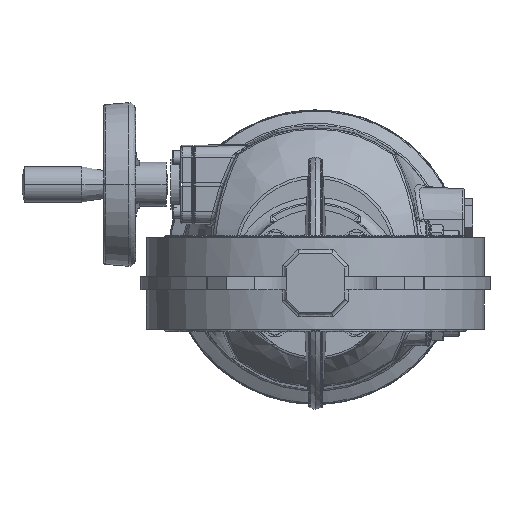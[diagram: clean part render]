
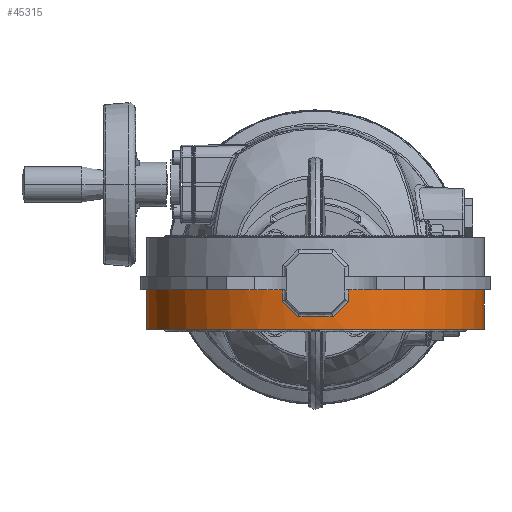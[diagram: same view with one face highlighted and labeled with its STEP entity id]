
A CAD part, front view. The second image highlights one B-rep face of the part: STEP entity #45315.
In plain terms, the highlighted conical face has half-angle 1 degrees and reference radius 103.489 mm.
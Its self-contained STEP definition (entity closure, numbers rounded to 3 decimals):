
#1628 = B_SPLINE_CURVE_WITH_KNOTS ( 'NONE', 3,
 ( #76949, #37012, #101127, #46428 ),
 .UNSPECIFIED., .F., .F.,
 ( 4, 4 ),
 ( 0., 1. ),
 .UNSPECIFIED. ) ;
#2485 = B_SPLINE_CURVE_WITH_KNOTS ( 'NONE', 3,
 ( #60964, #28394, #20527, #21058 ),
 .UNSPECIFIED., .F., .F.,
 ( 4, 4 ),
 ( 0., 1. ),
 .UNSPECIFIED. ) ;
#4042 = ORIENTED_EDGE ( 'NONE', *, *, #83350, .T. ) ;
#4476 = VERTEX_POINT ( 'NONE', #61695 ) ;
#5918 = DIRECTION ( 'NONE',  ( 0.017, 0., 1. ) ) ;
#5921 = DIRECTION ( 'NONE',  ( -0.017, 0., 1. ) ) ;
#7633 = AXIS2_PLACEMENT_3D ( 'NONE', #95897, #16540, #95396 ) ;
#8349 = CARTESIAN_POINT ( 'NONE',  ( 0., 0., -27.996 ) ) ;
#10243 = CARTESIAN_POINT ( 'NONE',  ( -103., 0., -27.996 ) ) ;
#10945 = CARTESIAN_POINT ( 'NONE',  ( -20.016, -101.463, -4. ) ) ;
#11973 = CARTESIAN_POINT ( 'NONE',  ( -47.67, -91.964, -4. ) ) ;
#12117 = DIRECTION ( 'NONE',  ( -1., 0., 0. ) ) ;
#13063 = CARTESIAN_POINT ( 'NONE',  ( 20.016, -101.463, -4. ) ) ;
#13266 = LINE ( 'NONE', #45294, #14700 ) ;
#13862 = B_SPLINE_CURVE_WITH_KNOTS ( 'NONE', 3,
 ( #10945, #36152, #98705, #52392, #11973, #58745 ),
 .UNSPECIFIED., .F., .F.,
 ( 4, 2, 4 ),
 ( 0., 0.5, 1. ),
 .UNSPECIFIED. ) ;
#14700 = VECTOR ( 'NONE', #5918, 1000. ) ;
#16540 = DIRECTION ( 'NONE',  ( 0., 0., 1. ) ) ;
#17896 = CARTESIAN_POINT ( 'NONE',  ( 3.618, -103.319, -20.456 ) ) ;
#18837 = ORIENTED_EDGE ( 'NONE', *, *, #71954, .T. ) ;
#20527 = CARTESIAN_POINT ( 'NONE',  ( -20.016, -101.422, -6.331 ) ) ;
#20580 = CARTESIAN_POINT ( 'NONE',  ( 103., 0., -27.996 ) ) ;
#21058 = CARTESIAN_POINT ( 'NONE',  ( -20.016, -101.463, -4. ) ) ;
#22006 = VERTEX_POINT ( 'NONE', #85776 ) ;
#22555 = CARTESIAN_POINT ( 'NONE',  ( 20.016, -101.463, -4. ) ) ;
#23850 = VERTEX_POINT ( 'NONE', #20580 ) ;
#24161 = B_SPLINE_CURVE_WITH_KNOTS ( 'NONE', 3,
 ( #69280, #37227, #86568, #54525, #102881, #13063 ),
 .UNSPECIFIED., .F., .F.,
 ( 4, 2, 4 ),
 ( 0., 0.5, 1. ),
 .UNSPECIFIED. ) ;
#25249 = CARTESIAN_POINT ( 'NONE',  ( 10.774, -102.567, -20.456 ) ) ;
#25561 = CARTESIAN_POINT ( 'NONE',  ( 103.419, 0., -4. ) ) ;
#25934 = ORIENTED_EDGE ( 'NONE', *, *, #66577, .T. ) ;
#27353 = CARTESIAN_POINT ( 'NONE',  ( 0., 0., 0. ) ) ;
#28215 = CARTESIAN_POINT ( 'NONE',  ( -10.774, -102.567, -20.456 ) ) ;
#28394 = CARTESIAN_POINT ( 'NONE',  ( -20.016, -101.38, -8.661 ) ) ;
#30186 = CONICAL_SURFACE ( 'NONE', #36949, 103.489, 0.017 ) ;
#30372 = VERTEX_POINT ( 'NONE', #73205 ) ;
#30583 = CARTESIAN_POINT ( 'NONE',  ( -103.489, 0., 0. ) ) ;
#31305 = DIRECTION ( 'NONE',  ( 1., 0., 0. ) ) ;
#33187 = EDGE_CURVE ( 'NONE', #94686, #78531, #13862, .T. ) ;
#33558 = CARTESIAN_POINT ( 'NONE',  ( -20.016, -101.339, -10.992 ) ) ;
#33877 = VERTEX_POINT ( 'NONE', #85374 ) ;
#35795 = ORIENTED_EDGE ( 'NONE', *, *, #57799, .F. ) ;
#35879 = EDGE_CURVE ( 'NONE', #22006, #90376, #47684, .T. ) ;
#36152 = CARTESIAN_POINT ( 'NONE',  ( -25.767, -100.329, -4. ) ) ;
#36295 = DIRECTION ( 'NONE',  ( 0., 0., 1. ) ) ;
#36949 = AXIS2_PLACEMENT_3D ( 'NONE', #27353, #36295, #12117 ) ;
#37012 = CARTESIAN_POINT ( 'NONE',  ( 20.016, -101.422, -6.331 ) ) ;
#37227 = CARTESIAN_POINT ( 'NONE',  ( 47.67, -91.964, -4. ) ) ;
#41484 = EDGE_CURVE ( 'NONE', #87114, #102826, #86577, .T. ) ;
#42555 = CARTESIAN_POINT ( 'NONE',  ( -3.618, -103.319, -20.456 ) ) ;
#44770 = CARTESIAN_POINT ( 'NONE',  ( -20.016, -101.339, -10.992 ) ) ;
#45294 = CARTESIAN_POINT ( 'NONE',  ( 103.489, 0., 0. ) ) ;
#45315 = ADVANCED_FACE ( 'NONE', ( #99895 ), #30186, .T. ) ;
#46223 = DIRECTION ( 'NONE',  ( -1., 0., 0. ) ) ;
#46236 = AXIS2_PLACEMENT_3D ( 'NONE', #71278, #103325, #31305 ) ;
#46257 = ORIENTED_EDGE ( 'NONE', *, *, #76560, .F. ) ;
#46428 = CARTESIAN_POINT ( 'NONE',  ( 20.016, -101.339, -10.992 ) ) ;
#47684 = CIRCLE ( 'NONE', #7633, 103.419 ) ;
#48270 = CARTESIAN_POINT ( 'NONE',  ( -16.953, -101.888, -14.147 ) ) ;
#49277 = VERTEX_POINT ( 'NONE', #10243 ) ;
#52392 = CARTESIAN_POINT ( 'NONE',  ( -42.372, -94.522, -4. ) ) ;
#53248 = AXIS2_PLACEMENT_3D ( 'NONE', #8349, #55132, #46223 ) ;
#54525 = CARTESIAN_POINT ( 'NONE',  ( 31.421, -98.704, -4. ) ) ;
#55132 = DIRECTION ( 'NONE',  ( 0., 0., 1. ) ) ;
#56551 = CIRCLE ( 'NONE', #53248, 103. ) ;
#56562 = EDGE_CURVE ( 'NONE', #33877, #87114, #63246, .T. ) ;
#57636 = CARTESIAN_POINT ( 'NONE',  ( -20.016, -101.463, -4. ) ) ;
#57799 = EDGE_CURVE ( 'NONE', #4476, #78531, #93208, .T. ) ;
#58223 = CARTESIAN_POINT ( 'NONE',  ( -13.869, -102.298, -17.302 ) ) ;
#58745 = CARTESIAN_POINT ( 'NONE',  ( -52.713, -88.977, -4. ) ) ;
#60487 = VERTEX_POINT ( 'NONE', #22555 ) ;
#60964 = CARTESIAN_POINT ( 'NONE',  ( -20.016, -101.339, -10.992 ) ) ;
#61494 = EDGE_CURVE ( 'NONE', #30372, #33877, #72497, .T. ) ;
#61695 = CARTESIAN_POINT ( 'NONE',  ( -103.419, 0., -4. ) ) ;
#62311 = CARTESIAN_POINT ( 'NONE',  ( 13.869, -102.298, -17.302 ) ) ;
#62829 = CARTESIAN_POINT ( 'NONE',  ( 10.774, -102.567, -20.456 ) ) ;
#63246 = B_SPLINE_CURVE_WITH_KNOTS ( 'NONE', 3,
 ( #25249, #17896, #42555, #88303 ),
 .UNSPECIFIED., .F., .F.,
 ( 4, 4 ),
 ( 0., 1. ),
 .UNSPECIFIED. ) ;
#66577 = EDGE_CURVE ( 'NONE', #22006, #60487, #24161, .T. ) ;
#67574 = ORIENTED_EDGE ( 'NONE', *, *, #33187, .T. ) ;
#69280 = CARTESIAN_POINT ( 'NONE',  ( 52.713, -88.977, -4. ) ) ;
#69696 = ORIENTED_EDGE ( 'NONE', *, *, #56562, .T. ) ;
#70766 = ORIENTED_EDGE ( 'NONE', *, *, #61494, .T. ) ;
#71278 = CARTESIAN_POINT ( 'NONE',  ( 0., 0., -4. ) ) ;
#71954 = EDGE_CURVE ( 'NONE', #102826, #94686, #2485, .T. ) ;
#72497 = B_SPLINE_CURVE_WITH_KNOTS ( 'NONE', 3,
 ( #78066, #101222, #62311, #62829 ),
 .UNSPECIFIED., .F., .F.,
 ( 4, 4 ),
 ( 0., 1. ),
 .UNSPECIFIED. ) ;
#73205 = CARTESIAN_POINT ( 'NONE',  ( 20.016, -101.339, -10.992 ) ) ;
#73932 = VECTOR ( 'NONE', #5921, 1000. ) ;
#76560 = EDGE_CURVE ( 'NONE', #49277, #4476, #77357, .T. ) ;
#76949 = CARTESIAN_POINT ( 'NONE',  ( 20.016, -101.463, -4. ) ) ;
#77357 = LINE ( 'NONE', #30583, #73932 ) ;
#78066 = CARTESIAN_POINT ( 'NONE',  ( 20.016, -101.339, -10.992 ) ) ;
#78531 = VERTEX_POINT ( 'NONE', #87597 ) ;
#81910 = CARTESIAN_POINT ( 'NONE',  ( -10.774, -102.567, -20.456 ) ) ;
#83350 = EDGE_CURVE ( 'NONE', #49277, #23850, #56551, .T. ) ;
#85374 = CARTESIAN_POINT ( 'NONE',  ( 10.774, -102.567, -20.456 ) ) ;
#85776 = CARTESIAN_POINT ( 'NONE',  ( 52.713, -88.977, -4. ) ) ;
#86568 = CARTESIAN_POINT ( 'NONE',  ( 42.372, -94.522, -4. ) ) ;
#86577 = B_SPLINE_CURVE_WITH_KNOTS ( 'NONE', 3,
 ( #81910, #58223, #48270, #33558 ),
 .UNSPECIFIED., .F., .F.,
 ( 4, 4 ),
 ( 0., 1. ),
 .UNSPECIFIED. ) ;
#87114 = VERTEX_POINT ( 'NONE', #28215 ) ;
#87245 = ORIENTED_EDGE ( 'NONE', *, *, #96824, .T. ) ;
#87597 = CARTESIAN_POINT ( 'NONE',  ( -52.713, -88.977, -4. ) ) ;
#88303 = CARTESIAN_POINT ( 'NONE',  ( -10.774, -102.567, -20.456 ) ) ;
#90376 = VERTEX_POINT ( 'NONE', #25561 ) ;
#93208 = CIRCLE ( 'NONE', #46236, 103.419 ) ;
#93778 = ORIENTED_EDGE ( 'NONE', *, *, #35879, .F. ) ;
#94686 = VERTEX_POINT ( 'NONE', #57636 ) ;
#95396 = DIRECTION ( 'NONE',  ( 1., 0., 0. ) ) ;
#95897 = CARTESIAN_POINT ( 'NONE',  ( 0., 0., -4. ) ) ;
#96824 = EDGE_CURVE ( 'NONE', #60487, #30372, #1628, .T. ) ;
#98705 = CARTESIAN_POINT ( 'NONE',  ( -31.421, -98.704, -4. ) ) ;
#99895 = FACE_OUTER_BOUND ( 'NONE', #103307, .T. ) ;
#100323 = EDGE_CURVE ( 'NONE', #23850, #90376, #13266, .T. ) ;
#100428 = ORIENTED_EDGE ( 'NONE', *, *, #100323, .T. ) ;
#101127 = CARTESIAN_POINT ( 'NONE',  ( 20.016, -101.38, -8.661 ) ) ;
#101222 = CARTESIAN_POINT ( 'NONE',  ( 16.953, -101.888, -14.147 ) ) ;
#101774 = ORIENTED_EDGE ( 'NONE', *, *, #41484, .T. ) ;
#102826 = VERTEX_POINT ( 'NONE', #44770 ) ;
#102881 = CARTESIAN_POINT ( 'NONE',  ( 25.767, -100.329, -4. ) ) ;
#103307 = EDGE_LOOP ( 'NONE', ( #4042, #100428, #93778, #25934, #87245, #70766, #69696, #101774, #18837, #67574, #35795, #46257 ) ) ;
#103325 = DIRECTION ( 'NONE',  ( 0., 0., 1. ) ) ;
